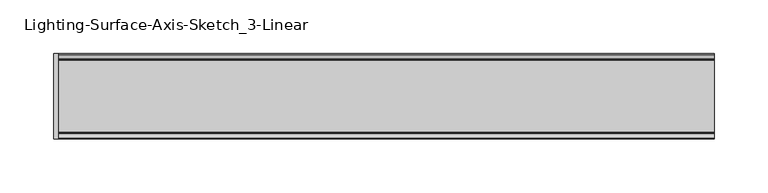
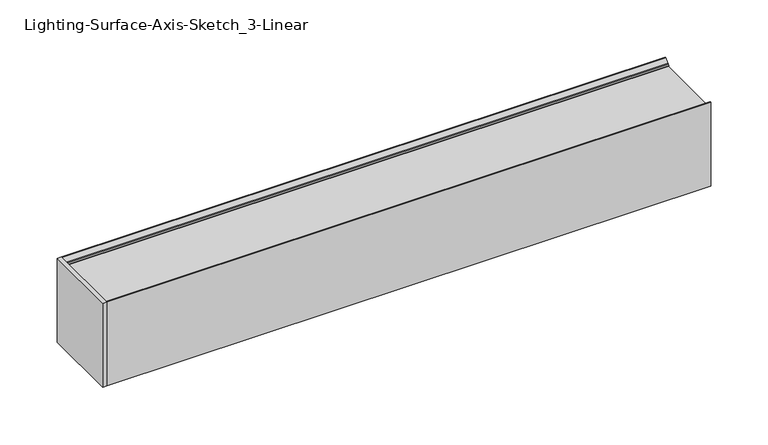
"""IFC4 building model written with IfcOpenShell, lengths in millimetres: light fixture geometry, Lighting-Surface-Axis-Sketch_3-Linear : SK3S-L-4-1300-80-35-SO."""

import ifcopenshell
import ifcopenshell.guid

model = None  # the IFC model being written
_history = None  # IfcOwnerHistory: only IFC2X3 demands one
_inside = {}  # id of a spatial element -> (the spatial element, [elements in it])
_under = {}  # id of a project, library or spatial element -> (it, [spatial elements below it])
_declared = {}  # id of a project -> (the project, [libraries it declares])
_typed = {}  # id of a type object -> (the type object, [elements of that type])
_made_of = {}  # id of a material, layer set ... -> (it, [elements and type objects made of it])


def new_model(schema):
    """Start an empty IFC model of exactly this schema.

    Asked for "IFC4X3", IfcOpenShell would pick the latest addendum, in which some entities
    have other attributes; the version numbers below select the first issue.
    IFC2X3 requires an IfcOwnerHistory on every rooted entity: one is made here for all.
    """
    global model, _history
    if schema == "IFC4X3":
        model = ifcopenshell.file(schema_version=(4, 3, 0, 0))
    else:
        model = ifcopenshell.file(schema=schema)
    _inside.clear()
    _under.clear()
    _declared.clear()
    _typed.clear()
    _made_of.clear()
    _history = None
    if model.schema == "IFC2X3":
        org = make("IfcOrganization", Name="unknown")
        user = make(
            "IfcPersonAndOrganization",
            ThePerson=make("IfcPerson", FamilyName="unknown"),
            TheOrganization=org,
        )
        app = make(
            "IfcApplication",
            ApplicationDeveloper=org,
            Version="unknown",
            ApplicationFullName="unknown",
            ApplicationIdentifier="unknown",
        )
        _history = make(
            "IfcOwnerHistory",
            OwningUser=user,
            OwningApplication=app,
            ChangeAction="ADDED",
            CreationDate=0,
        )
    return model


def make(cls, **values):
    """One entity of the class cls with the attributes given. An attribute that is None is left unset."""
    return model.create_entity(
        cls, **{name: value for name, value in values.items() if value is not None}
    )


def rooted(cls, **values):
    """An entity with a GlobalId (a new one), such as an element, a storey or a relation."""
    return make(cls, GlobalId=ifcopenshell.guid.new(), OwnerHistory=_history, **values)


def si_unit(unit_type, name, prefix=None):
    """IfcSIUnit, for example si_unit("LENGTHUNIT", "METRE", prefix="MILLI")."""
    return make("IfcSIUnit", UnitType=unit_type, Prefix=prefix, Name=name)


def assignment(units):
    """IfcUnitAssignment: the units of a project."""
    return None if units is None else make("IfcUnitAssignment", Units=units)


def point(xyz):
    """IfcCartesianPoint."""
    return None if xyz is None else make("IfcCartesianPoint", Coordinates=xyz)


def direction(xyz):
    """IfcDirection."""
    return None if xyz is None else make("IfcDirection", DirectionRatios=xyz)


def frame(location, z_axis=None, x_axis=None):
    """IfcAxis2Placement3D, a coordinate frame: its origin and axes. An axis left out is left unset."""
    return make(
        "IfcAxis2Placement3D",
        Location=point(location),
        Axis=direction(z_axis),
        RefDirection=direction(x_axis),
    )


def frame_2d(location, x_axis=None):
    """IfcAxis2Placement2D, a coordinate frame in the plane: its origin and x axis."""
    return make(
        "IfcAxis2Placement2D", Location=point(location), RefDirection=direction(x_axis)
    )


def origin():
    """The frame at (0, 0, 0) with its axes left unset."""
    return frame((0.0, 0.0, 0.0))


def origin_with_axes():
    """The frame at (0, 0, 0) with the z axis (0, 0, 1) and the x axis (1, 0, 0) written out."""
    return frame((0.0, 0.0, 0.0), z_axis=(0.0, 0.0, 1.0), x_axis=(1.0, 0.0, 0.0))


def place(relative_to, where):
    """IfcLocalPlacement: puts the frame where relative to a parent placement (None: the world)."""
    return make(
        "IfcLocalPlacement", PlacementRelTo=relative_to, RelativePlacement=where
    )


def context(
    kind, dimensions, precision=None, world=None, true_north=None, identifier=None
):
    """IfcGeometricRepresentationContext, for example the 3D "Model" context."""
    return make(
        "IfcGeometricRepresentationContext",
        ContextIdentifier=identifier,
        ContextType=kind,
        CoordinateSpaceDimension=dimensions,
        Precision=precision,
        WorldCoordinateSystem=world,
        TrueNorth=true_north,
    )


def project(units=None, contexts=None):
    """IfcProject with its units and contexts."""
    return rooted(
        "IfcProject",
        Name="project",
        RepresentationContexts=contexts,
        UnitsInContext=assignment(units),
    )


def spatial(cls, under=None, at=None, **own):
    """A site, building, storey or space (cls), placed at a placement, below another one or the project."""
    s = rooted(cls, ObjectPlacement=at, **own)
    if under is not None:
        _under.setdefault(under.id(), (under, []))[1].append(s)
    return s


def polyline(points):
    """IfcPolyline through the points."""
    return make("IfcPolyline", Points=[point(p) for p in points])


def circle_curve(where, radius):
    """IfcCircle in the frame where."""
    return make("IfcCircle", Position=where, Radius=radius)


def trimmed(basis, trim1, trim2, sense, master):
    """IfcTrimmedCurve: the piece of a basis curve between two trims."""
    return make(
        "IfcTrimmedCurve",
        BasisCurve=basis,
        Trim1=trim1,
        Trim2=trim2,
        SenseAgreement=sense,
        MasterRepresentation=master,
    )


def segment(curve, same_sense, transition):
    """IfcCompositeCurveSegment."""
    return make(
        "IfcCompositeCurveSegment",
        Transition=transition,
        SameSense=same_sense,
        ParentCurve=curve,
    )


def composite_curve(segments, self_intersect=None):
    """IfcCompositeCurve: segments joined end to end."""
    return make("IfcCompositeCurve", Segments=segments, SelfIntersect=self_intersect)


def outline(outer, holes=None, kind="AREA"):
    """IfcArbitraryClosedProfileDef: a profile drawn as a closed curve; with holes, ...WithVoids."""
    if holes is None:
        return make("IfcArbitraryClosedProfileDef", ProfileType=kind, OuterCurve=outer)
    return make(
        "IfcArbitraryProfileDefWithVoids",
        ProfileType=kind,
        OuterCurve=outer,
        InnerCurves=holes,
    )


def extrude(swept, where, along, depth):
    """IfcExtrudedAreaSolid: the profile swept, set in the frame where, extruded along a direction by depth."""
    return make(
        "IfcExtrudedAreaSolid",
        SweptArea=swept,
        Position=where,
        ExtrudedDirection=direction(along),
        Depth=depth,
    )


def shape(context_of_items, identifier, shape_type, items):
    """IfcShapeRepresentation: the items that make up one representation, for example the "Body"."""
    return make(
        "IfcShapeRepresentation",
        ContextOfItems=context_of_items,
        RepresentationIdentifier=identifier,
        RepresentationType=shape_type,
        Items=items,
    )


def source(mapping_origin, context_of_items, identifier, shape_type, items):
    """IfcRepresentationMap: a shape defined once, which mapped items show again and again."""
    return make(
        "IfcRepresentationMap",
        MappingOrigin=mapping_origin,
        MappedRepresentation=shape(context_of_items, identifier, shape_type, items),
    )


def transform(
    local_origin,
    x_axis=None,
    y_axis=None,
    z_axis=None,
    scale=None,
    scale2=None,
    scale3=None,
    uniform=True,
):
    """IfcCartesianTransformationOperator3D, or its non-uniform kind. x_axis, y_axis, z_axis: its Axis1, 2, 3."""
    if uniform:
        return make(
            "IfcCartesianTransformationOperator3D",
            Axis1=direction(x_axis),
            Axis2=direction(y_axis),
            LocalOrigin=point(local_origin),
            Scale=scale,
            Axis3=direction(z_axis),
        )
    return make(
        "IfcCartesianTransformationOperator3DnonUniform",
        Axis1=direction(x_axis),
        Axis2=direction(y_axis),
        LocalOrigin=point(local_origin),
        Scale=scale,
        Axis3=direction(z_axis),
        Scale2=scale2,
        Scale3=scale3,
    )


def mapped(mapping_source, mapping_target):
    """IfcMappedItem: shows the shape of a source again, moved by a transform."""
    return make(
        "IfcMappedItem", MappingSource=mapping_source, MappingTarget=mapping_target
    )


def made_of(thing, what):
    """Note that an element or type object is made of a material, layer set ...; save() writes the relation."""
    if what is not None:
        _made_of.setdefault(what.id(), (what, []))[1].append(thing)
    return thing


def element(
    cls,
    number,
    at=None,
    inside=None,
    cuts=None,
    type_object=None,
    material=None,
    context=None,
    identifier="Body",
    shape_type=None,
    held_by="IfcProductDefinitionShape",
    body=None,
    shapes=None,
    **own,
):
    """One element of the class cls, such as IfcWall. Its Tag is "e" and its number.

    at: its placement. inside: the storey or other place that contains it. cuts: it is an
    opening in that element (IfcRelVoidsElement). A single representation is given by context,
    identifier, shape_type and body (its items); several are given by shapes. held_by: the class
    of the entity that holds the representations. save() writes the other relations.
    """
    e = rooted(cls, Tag="e%d" % number, ObjectPlacement=at, **own)
    if body is not None:
        shapes = [shape(context, identifier, shape_type, body)]
    if shapes is not None:
        e.Representation = make(held_by, Representations=shapes)
    if inside is not None:
        _inside.setdefault(inside.id(), (inside, []))[1].append(e)
    if cuts is not None:
        rooted(
            "IfcRelVoidsElement", RelatingBuildingElement=cuts, RelatedOpeningElement=e
        )
    if type_object is not None:
        _typed.setdefault(type_object.id(), (type_object, []))[1].append(e)
    return made_of(e, material)


def aggregate(whole, parts):
    """IfcRelAggregates: a whole, such as a stair, and the parts it consists of."""
    return rooted("IfcRelAggregates", RelatingObject=whole, RelatedObjects=parts)


def save(model, path):
    """Write the relations noted so far, then the file.

    IfcRelAggregates (storeys below a building ...), IfcRelContainedInSpatialStructure (elements
    in a storey), IfcRelDefinesByType, IfcRelAssociatesMaterial and IfcRelDeclares: one each for
    every whole, place, type object, material and project.
    """
    for whole, parts in _under.values():
        aggregate(whole, parts)
    for where, things in _inside.values():
        rooted(
            "IfcRelContainedInSpatialStructure",
            RelatedElements=things,
            RelatingStructure=where,
        )
    for kind, things in _typed.values():
        rooted("IfcRelDefinesByType", RelatedObjects=things, RelatingType=kind)
    for what, things in _made_of.values():
        rooted("IfcRelAssociatesMaterial", RelatedObjects=things, RelatingMaterial=what)
    for by, libraries in _declared.values():
        rooted("IfcRelDeclares", RelatingContext=by, RelatedDefinitions=libraries)
    model.write(path)


def lighting_surface_axis_sketch_3_linear_16e01a5c(model_context):
    return source(origin(), model_context, "Body", "SweptSolid", [
        extrude(outline(polyline([(-304.8, -39.6875), (-308.9529, -39.6875), (-308.9529, 39.6875), (-304.8, 39.6875), (-304.8, -39.6875)])), origin_with_axes(), (0.0, 0.0, 1.0), 89.70518),
        extrude(outline(polyline([(-304.8, -35.56), (-304.8, 35.56), (304.8, 35.56), (304.8, -35.56), (-304.8, -35.56)])), frame((0.0, 0.0, 6.4364681), z_axis=(0.0, 0.0, 1.0), x_axis=(1.0, 0.0, 0.0)), (0.0, 0.0, 1.0), 1.27),
        extrude(outline(polyline([(304.8, 35.56), (304.8, -35.56), (-304.8, -35.56), (-304.8, 35.56), (304.8, 35.56)])), frame((0.0, 0.0, 81.812403), z_axis=(0.0, 0.0, 1.0), x_axis=(1.0, 0.0, 0.0)), (0.0, 0.0, 1.0), 1.27),
        extrude(outline(polyline([(35.2425, 85.979), (38.89375, 89.7055795), (39.6875, 89.7055795), (39.6875, 0.0), (36.1315, 0.0), (34.6075, 1.524), (34.6075, 3.683), (35.8775, 3.683), (35.8775, 1.905), (37.7825, 1.905), (37.7825, 85.979), (35.2425, 85.979)])), frame((-304.8, 0.0, 0.0), z_axis=(1.0, 0.0, 0.0), x_axis=(0.0, 1.0, 0.0)), (0.0, 0.0, 1.0), 609.6),
        extrude(outline(composite_curve([segment(polyline([(34.4369494, 17.010257), (34.5887361, 9.3776256), (35.9859878, 9.3776256)]), True, "CONTINUOUS"), segment(trimmed(circle_curve(frame_2d((35.9859878, 8.5838756)), 0.79375), [point((35.9859878, 9.3776256))], [point((36.7779365, 8.5304311))], False, "CARTESIAN"), True, "CONTINUOUS"), segment(polyline([(36.7779365, 8.5304311), (36.5675604, 5.4130412)]), True, "CONTINUOUS"), segment(trimmed(circle_curve(frame_2d((35.1426868, 5.5177537)), 1.428716), [point((36.5675604, 5.4130412))], [point((36.146856, 4.5014498))], False, "CARTESIAN"), True, "CONTINUOUS"), segment(trimmed(circle_curve(frame_2d((35.5073083, 4.9638115)), 0.7891766), [point((36.146856, 4.5014498))], [point((34.9129694, 4.444619))], False, "CARTESIAN"), True, "CONTINUOUS"), segment(polyline([(34.9129694, 4.444619), (33.9271376, 5.5731371)]), True, "CONTINUOUS"), segment(trimmed(circle_curve(frame_2d((34.3097188, 5.907346)), 0.508), [point((33.9271376, 5.5731371))], [point((34.3097188, 6.415346))], False, "CARTESIAN"), True, "CONTINUOUS"), segment(polyline([(34.3097188, 6.415346), (35.6168897, 6.415346), (35.7107202, 7.805743)]), True, "CONTINUOUS"), segment(trimmed(circle_curve(frame_2d((35.2038731, 7.8399474)), 0.508), [point((35.7107202, 7.805743))], [point((35.2380775, 8.3467946))], True, "CARTESIAN"), True, "CONTINUOUS"), segment(polyline([(35.2380775, 8.3467946), (33.5908242, 8.457959), (33.393867, 18.3620008), (33.6080539, 24.9549269)]), True, "CONTINUOUS"), segment(trimmed(circle_curve(frame_2d((34.115786, 24.9384321)), 0.508), [point((33.6080539, 24.9549269))], [point((34.6235182, 24.9219372))], False, "CARTESIAN"), True, "CONTINUOUS"), segment(polyline([(34.6235182, 24.9219372), (34.4338694, 19.0843227), (34.4369494, 17.010257)]), True, "CONTINUOUS")], self_intersect=False)), frame((-304.8, 0.0, 0.0), z_axis=(1.0, 0.0, 0.0), x_axis=(0.0, 1.0, 0.0)), (0.0, 0.0, 1.0), 609.6),
        extrude(outline(composite_curve([segment(polyline([(34.4369494, 72.6953225), (34.4338694, 70.6212568), (34.6235182, 64.7836423)]), True, "CONTINUOUS"), segment(trimmed(circle_curve(frame_2d((34.115786, 64.7671475)), 0.508), [point((34.6235182, 64.7836423))], [point((33.6080539, 64.7506526))], False, "CARTESIAN"), True, "CONTINUOUS"), segment(polyline([(33.6080539, 64.7506526), (33.393867, 71.3435787), (33.5908242, 81.2476205), (35.2380775, 81.3587849)]), True, "CONTINUOUS"), segment(trimmed(circle_curve(frame_2d((35.2038731, 81.8656321)), 0.508), [point((35.2380775, 81.3587849))], [point((35.7107202, 81.8998365))], True, "CARTESIAN"), True, "CONTINUOUS"), segment(polyline([(35.7107202, 81.8998365), (35.6168897, 83.2902335), (34.3097188, 83.2902335)]), True, "CONTINUOUS"), segment(trimmed(circle_curve(frame_2d((34.3097188, 83.7982335)), 0.508), [point((34.3097188, 83.2902335))], [point((33.9271376, 84.1324424))], False, "CARTESIAN"), True, "CONTINUOUS"), segment(polyline([(33.9271376, 84.1324424), (34.9129694, 85.2609605)]), True, "CONTINUOUS"), segment(trimmed(circle_curve(frame_2d((35.5073083, 84.741768)), 0.7891766), [point((34.9129694, 85.2609605))], [point((36.146856, 85.2041297))], False, "CARTESIAN"), True, "CONTINUOUS"), segment(trimmed(circle_curve(frame_2d((35.1426868, 84.1878258)), 1.428716), [point((36.146856, 85.2041297))], [point((36.5675604, 84.2925383))], False, "CARTESIAN"), True, "CONTINUOUS"), segment(polyline([(36.5675604, 84.2925383), (36.7779365, 81.1751484)]), True, "CONTINUOUS"), segment(trimmed(circle_curve(frame_2d((35.9859878, 81.1217039)), 0.79375), [point((36.7779365, 81.1751484))], [point((35.9859878, 80.3279539))], False, "CARTESIAN"), True, "CONTINUOUS"), segment(polyline([(35.9859878, 80.3279539), (34.5887361, 80.3279539), (34.4369494, 72.6953225)]), True, "CONTINUOUS")], self_intersect=False)), frame((-304.8, 0.0, 0.0), z_axis=(1.0, 0.0, 0.0), x_axis=(0.0, 1.0, 0.0)), (0.0, 0.0, 1.0), 609.6),
        extrude(outline(polyline([(-35.2425, 85.979), (-37.7825, 85.979), (-37.7825, 1.905), (-35.8775, 1.905), (-35.8775, 3.683), (-34.6075, 3.683), (-34.6075, 1.524), (-36.1315, 0.0), (-39.6875, 0.0), (-39.6875, 89.7055795), (-38.89375, 89.7055795), (-35.2425, 85.979)])), frame((-304.8, 0.0, 0.0), z_axis=(1.0, 0.0, 0.0), x_axis=(0.0, 1.0, 0.0)), (0.0, 0.0, 1.0), 609.6),
        extrude(outline(composite_curve([segment(polyline([(-34.4369494, 17.010257), (-34.4338694, 19.0843227), (-34.6235182, 24.9219372)]), True, "CONTINUOUS"), segment(trimmed(circle_curve(frame_2d((-34.115786, 24.9384321)), 0.508), [point((-34.6235182, 24.9219372))], [point((-33.6080539, 24.9549269))], False, "CARTESIAN"), True, "CONTINUOUS"), segment(polyline([(-33.6080539, 24.9549269), (-33.393867, 18.3620008), (-33.5908242, 8.457959), (-35.2380775, 8.3467946)]), True, "CONTINUOUS"), segment(trimmed(circle_curve(frame_2d((-35.2038731, 7.8399474)), 0.508), [point((-35.2380775, 8.3467946))], [point((-35.7107202, 7.805743))], True, "CARTESIAN"), True, "CONTINUOUS"), segment(polyline([(-35.7107202, 7.805743), (-35.6168897, 6.415346), (-34.3097188, 6.415346)]), True, "CONTINUOUS"), segment(trimmed(circle_curve(frame_2d((-34.3097188, 5.907346)), 0.508), [point((-34.3097188, 6.415346))], [point((-33.9271376, 5.5731371))], False, "CARTESIAN"), True, "CONTINUOUS"), segment(polyline([(-33.9271376, 5.5731371), (-34.9129694, 4.444619)]), True, "CONTINUOUS"), segment(trimmed(circle_curve(frame_2d((-35.5073083, 4.9638115)), 0.7891766), [point((-34.9129694, 4.444619))], [point((-36.146856, 4.5014498))], False, "CARTESIAN"), True, "CONTINUOUS"), segment(trimmed(circle_curve(frame_2d((-35.1426868, 5.5177537)), 1.428716), [point((-36.146856, 4.5014498))], [point((-36.5675604, 5.4130412))], False, "CARTESIAN"), True, "CONTINUOUS"), segment(polyline([(-36.5675604, 5.4130412), (-36.7779365, 8.5304311)]), True, "CONTINUOUS"), segment(trimmed(circle_curve(frame_2d((-35.9859878, 8.5838756)), 0.79375), [point((-36.7779365, 8.5304311))], [point((-35.9859878, 9.3776256))], False, "CARTESIAN"), True, "CONTINUOUS"), segment(polyline([(-35.9859878, 9.3776256), (-34.5887361, 9.3776256), (-34.4369494, 17.010257)]), True, "CONTINUOUS")], self_intersect=False)), frame((-304.8, 0.0, 0.0), z_axis=(1.0, 0.0, 0.0), x_axis=(0.0, 1.0, 0.0)), (0.0, 0.0, 1.0), 609.6),
        extrude(outline(composite_curve([segment(polyline([(-34.4369494, 72.6953225), (-34.5887361, 80.3279539), (-35.9859878, 80.3279539)]), True, "CONTINUOUS"), segment(trimmed(circle_curve(frame_2d((-35.9859878, 81.1217039)), 0.79375), [point((-35.9859878, 80.3279539))], [point((-36.7779365, 81.1751484))], False, "CARTESIAN"), True, "CONTINUOUS"), segment(polyline([(-36.7779365, 81.1751484), (-36.5675604, 84.2925383)]), True, "CONTINUOUS"), segment(trimmed(circle_curve(frame_2d((-35.1426868, 84.1878258)), 1.428716), [point((-36.5675604, 84.2925383))], [point((-36.146856, 85.2041297))], False, "CARTESIAN"), True, "CONTINUOUS"), segment(trimmed(circle_curve(frame_2d((-35.5073083, 84.741768)), 0.7891766), [point((-36.146856, 85.2041297))], [point((-34.9129694, 85.2609605))], False, "CARTESIAN"), True, "CONTINUOUS"), segment(polyline([(-34.9129694, 85.2609605), (-33.9271376, 84.1324424)]), True, "CONTINUOUS"), segment(trimmed(circle_curve(frame_2d((-34.3097188, 83.7982335)), 0.508), [point((-33.9271376, 84.1324424))], [point((-34.3097188, 83.2902335))], False, "CARTESIAN"), True, "CONTINUOUS"), segment(polyline([(-34.3097188, 83.2902335), (-35.6168897, 83.2902335), (-35.7107202, 81.8998365)]), True, "CONTINUOUS"), segment(trimmed(circle_curve(frame_2d((-35.2038731, 81.8656321)), 0.508), [point((-35.7107202, 81.8998365))], [point((-35.2380775, 81.3587849))], True, "CARTESIAN"), True, "CONTINUOUS"), segment(polyline([(-35.2380775, 81.3587849), (-33.5908242, 81.2476205), (-33.393867, 71.3435787), (-33.6080539, 64.7506526)]), True, "CONTINUOUS"), segment(trimmed(circle_curve(frame_2d((-34.115786, 64.7671475)), 0.508), [point((-33.6080539, 64.7506526))], [point((-34.6235182, 64.7836423))], False, "CARTESIAN"), True, "CONTINUOUS"), segment(polyline([(-34.6235182, 64.7836423), (-34.4338694, 70.6212568), (-34.4369494, 72.6953225)]), True, "CONTINUOUS")], self_intersect=False)), frame((-304.8, 0.0, 0.0), z_axis=(1.0, 0.0, 0.0), x_axis=(0.0, 1.0, 0.0)), (0.0, 0.0, 1.0), 609.6),
    ])


if __name__ == "__main__":
    model = new_model("IFC4")
    model_context = context("Model", 3, world=origin())
    ifc_project = project(units=[si_unit("LENGTHUNIT", "METRE", prefix="MILLI")], contexts=[model_context])
    site = spatial("IfcSite", under=ifc_project)
    building = spatial("IfcBuilding", under=site)
    placement = place(None, origin())
    lighting_surface_axis_sketch_3_linear_shape = lighting_surface_axis_sketch_3_linear_16e01a5c(model_context)
    element("IfcLightFixture", 1, ObjectType="Lighting-Surface-Axis-Sketch_3-Linear : SK3S-L-4-1300-80-35-SO", at=placement, inside=building, context=model_context, shape_type="MappedRepresentation", body=[
        mapped(lighting_surface_axis_sketch_3_linear_shape, transform((0.0, 0.0, 0.0), x_axis=(1.0, 0.0, 0.0), y_axis=(0.0, 1.0, 0.0), z_axis=(0.0, 0.0, 1.0))),
    ])
    save(model, "model.ifc")
